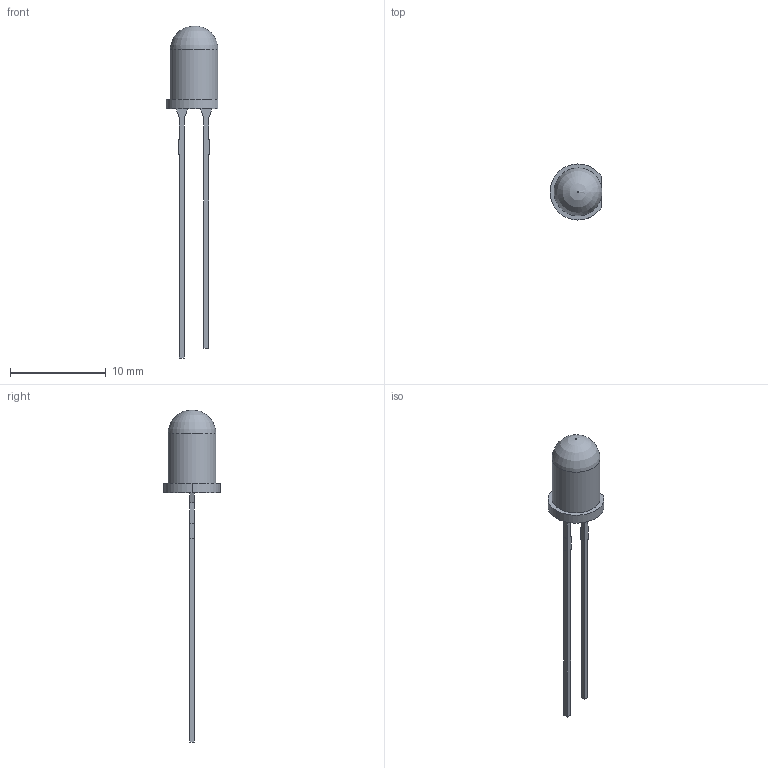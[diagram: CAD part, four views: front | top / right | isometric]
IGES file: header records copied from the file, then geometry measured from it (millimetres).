
Start section: Data from Parasolid IGES Translator 25.1.153, Copyright(c) 2006 Siemens PLM Software. All Rights Reserved.
Global section: file name: 62b625ed3d4ac822bb2787d8.iges; native system: By Siemens PLM Incorporated; preprocessor: XPlus GENERIC/IGES 25.1.153; author: Noname; organization: Noname; date: 20220624.210030; units: metre
Bounding box: 5.42 x 5.85 x 34.65 mm (x, y, z)
Surface area: 277.3 mm2 (no closed solid volume)
Topology: 0 solids, 0 shells, 97 faces, 508 edges, 506 vertices
Faces by surface type: extrusion 93, revolution 4
